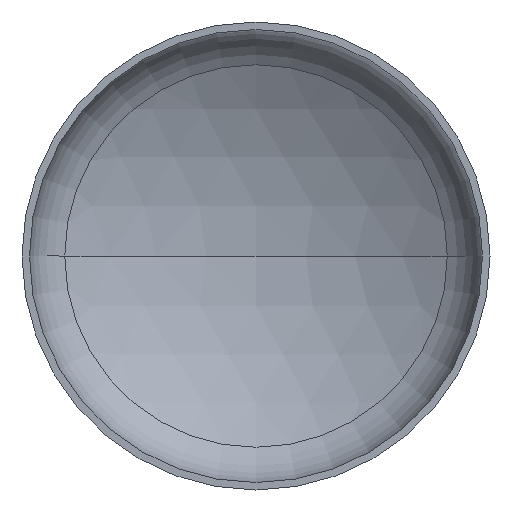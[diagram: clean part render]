
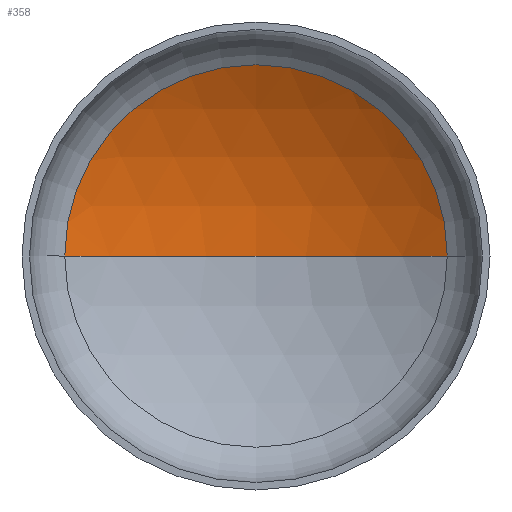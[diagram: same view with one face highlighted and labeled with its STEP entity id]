
A CAD part, front view. The second image highlights one B-rep face of the part: STEP entity #358.
In plain terms, the highlighted spherical face has radius 4000 mm.
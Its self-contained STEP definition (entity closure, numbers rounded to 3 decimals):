
#6 = DIRECTION ( 'NONE',  ( -1., 0., 0. ) ) ;
#9 = DIRECTION ( 'NONE',  ( 0., 0., -1. ) ) ;
#13 = EDGE_LOOP ( 'NONE', ( #79, #38, #333 ) ) ;
#28 = VERTEX_POINT ( 'NONE', #366 ) ;
#32 = DIRECTION ( 'NONE',  ( 0., -1., 0. ) ) ;
#35 = AXIS2_PLACEMENT_3D ( 'NONE', #232, #184, #329 ) ;
#37 = AXIS2_PLACEMENT_3D ( 'NONE', #395, #9, #6 ) ;
#38 = ORIENTED_EDGE ( 'NONE', *, *, #91, .T. ) ;
#40 = AXIS2_PLACEMENT_3D ( 'NONE', #257, #32, #281 ) ;
#52 = CIRCLE ( 'NONE', #37, 4000. ) ;
#79 = ORIENTED_EDGE ( 'NONE', *, *, #94, .F. ) ;
#89 = EDGE_CURVE ( 'NONE', #126, #148, #182, .T. ) ;
#91 = EDGE_CURVE ( 'NONE', #28, #126, #52, .T. ) ;
#94 = EDGE_CURVE ( 'NONE', #28, #148, #368, .T. ) ;
#122 = DIRECTION ( 'NONE',  ( 0., 0., -1. ) ) ;
#126 = VERTEX_POINT ( 'NONE', #275 ) ;
#148 = VERTEX_POINT ( 'NONE', #279 ) ;
#182 = CIRCLE ( 'NONE', #40, 2043.344 ) ;
#184 = DIRECTION ( 'NONE',  ( 0., 0., 1. ) ) ;
#216 = DIRECTION ( 'NONE',  ( -1., 0., 0. ) ) ;
#232 = CARTESIAN_POINT ( 'NONE',  ( 0., -2656.761, 0. ) ) ;
#257 = CARTESIAN_POINT ( 'NONE',  ( 0., 781.952, 0. ) ) ;
#270 = AXIS2_PLACEMENT_3D ( 'NONE', #359, #122, #216 ) ;
#275 = CARTESIAN_POINT ( 'NONE',  ( 2043.344, 781.952, 0. ) ) ;
#279 = CARTESIAN_POINT ( 'NONE',  ( -2043.344, 781.952, 0. ) ) ;
#281 = DIRECTION ( 'NONE',  ( 1., 0., 0. ) ) ;
#322 = SPHERICAL_SURFACE ( 'NONE', #270, 4000. ) ;
#329 = DIRECTION ( 'NONE',  ( 1., 0., 0. ) ) ;
#333 = ORIENTED_EDGE ( 'NONE', *, *, #89, .T. ) ;
#358 = ADVANCED_FACE ( 'NONE', ( #385 ), #322, .F. ) ;
#359 = CARTESIAN_POINT ( 'NONE',  ( 0., -2656.761, 0. ) ) ;
#366 = CARTESIAN_POINT ( 'NONE',  ( 0., 1343.239, 0. ) ) ;
#368 = CIRCLE ( 'NONE', #35, 4000. ) ;
#385 = FACE_OUTER_BOUND ( 'NONE', #13, .T. ) ;
#395 = CARTESIAN_POINT ( 'NONE',  ( 0., -2656.761, 0. ) ) ;
